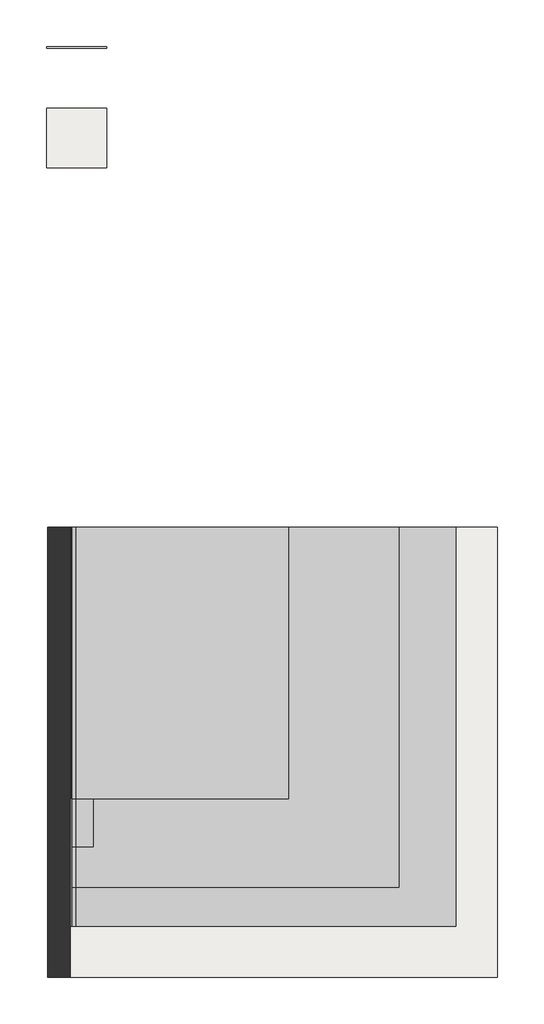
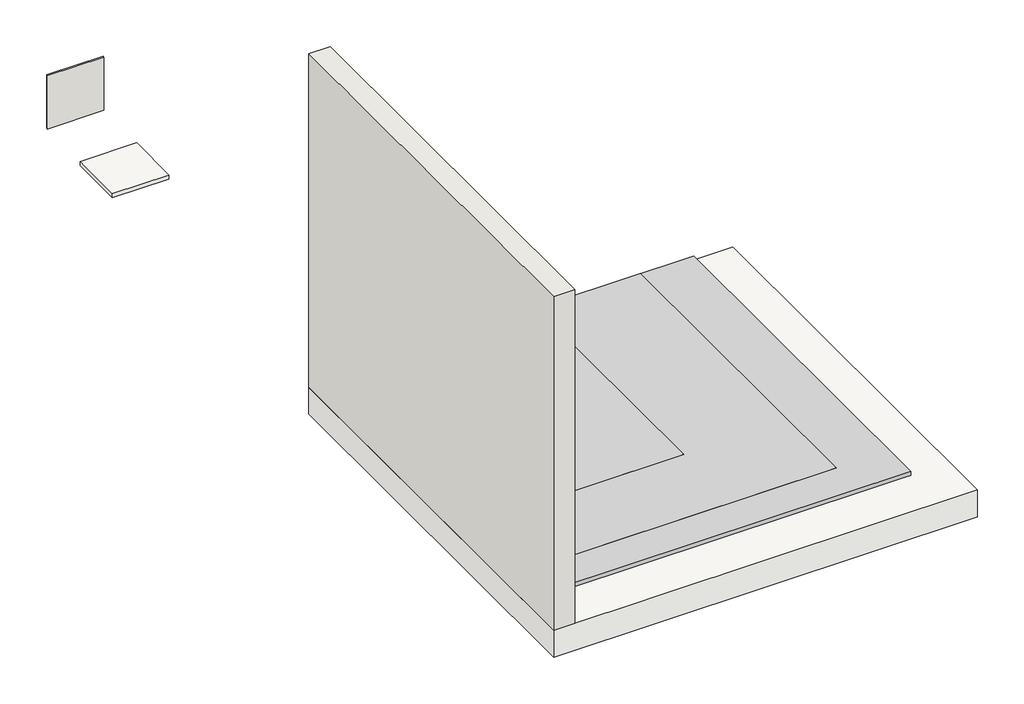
# One storey: 2 slabs, 2 walls, 1 proxy.
"""IFC4 building model written with IfcOpenShell, lengths in millimetres."""

import ifcopenshell
import ifcopenshell.guid

model = None  # the IFC model being written
_history = None  # IfcOwnerHistory: only IFC2X3 demands one
_inside = {}  # id of a spatial element -> (the spatial element, [elements in it])
_under = {}  # id of a project, library or spatial element -> (it, [spatial elements below it])
_declared = {}  # id of a project -> (the project, [libraries it declares])
_typed = {}  # id of a type object -> (the type object, [elements of that type])
_made_of = {}  # id of a material, layer set ... -> (it, [elements and type objects made of it])


def new_model(schema):
    """Start an empty IFC model of exactly this schema.

    Asked for "IFC4X3", IfcOpenShell would pick the latest addendum, in which some entities
    have other attributes; the version numbers below select the first issue.
    IFC2X3 requires an IfcOwnerHistory on every rooted entity: one is made here for all.
    """
    global model, _history
    if schema == "IFC4X3":
        model = ifcopenshell.file(schema_version=(4, 3, 0, 0))
    else:
        model = ifcopenshell.file(schema=schema)
    _inside.clear()
    _under.clear()
    _declared.clear()
    _typed.clear()
    _made_of.clear()
    _history = None
    if model.schema == "IFC2X3":
        org = make("IfcOrganization", Name="unknown")
        user = make(
            "IfcPersonAndOrganization",
            ThePerson=make("IfcPerson", FamilyName="unknown"),
            TheOrganization=org,
        )
        app = make(
            "IfcApplication",
            ApplicationDeveloper=org,
            Version="unknown",
            ApplicationFullName="unknown",
            ApplicationIdentifier="unknown",
        )
        _history = make(
            "IfcOwnerHistory",
            OwningUser=user,
            OwningApplication=app,
            ChangeAction="ADDED",
            CreationDate=0,
        )
    return model


def make(cls, **values):
    """One entity of the class cls with the attributes given. An attribute that is None is left unset."""
    return model.create_entity(
        cls, **{name: value for name, value in values.items() if value is not None}
    )


def rooted(cls, **values):
    """An entity with a GlobalId (a new one), such as an element, a storey or a relation."""
    return make(cls, GlobalId=ifcopenshell.guid.new(), OwnerHistory=_history, **values)


def si_unit(unit_type, name, prefix=None):
    """IfcSIUnit, for example si_unit("LENGTHUNIT", "METRE", prefix="MILLI")."""
    return make("IfcSIUnit", UnitType=unit_type, Prefix=prefix, Name=name)


def assignment(units):
    """IfcUnitAssignment: the units of a project."""
    return None if units is None else make("IfcUnitAssignment", Units=units)


def point(xyz):
    """IfcCartesianPoint."""
    return None if xyz is None else make("IfcCartesianPoint", Coordinates=xyz)


def direction(xyz):
    """IfcDirection."""
    return None if xyz is None else make("IfcDirection", DirectionRatios=xyz)


def frame(location, z_axis=None, x_axis=None):
    """IfcAxis2Placement3D, a coordinate frame: its origin and axes. An axis left out is left unset."""
    return make(
        "IfcAxis2Placement3D",
        Location=point(location),
        Axis=direction(z_axis),
        RefDirection=direction(x_axis),
    )


def frame_2d(location, x_axis=None):
    """IfcAxis2Placement2D, a coordinate frame in the plane: its origin and x axis."""
    return make(
        "IfcAxis2Placement2D", Location=point(location), RefDirection=direction(x_axis)
    )


def origin():
    """The frame at (0, 0, 0) with its axes left unset."""
    return frame((0.0, 0.0, 0.0))


def place(relative_to, where):
    """IfcLocalPlacement: puts the frame where relative to a parent placement (None: the world)."""
    return make(
        "IfcLocalPlacement", PlacementRelTo=relative_to, RelativePlacement=where
    )


def context(
    kind, dimensions, precision=None, world=None, true_north=None, identifier=None
):
    """IfcGeometricRepresentationContext, for example the 3D "Model" context."""
    return make(
        "IfcGeometricRepresentationContext",
        ContextIdentifier=identifier,
        ContextType=kind,
        CoordinateSpaceDimension=dimensions,
        Precision=precision,
        WorldCoordinateSystem=world,
        TrueNorth=true_north,
    )


def project(units=None, contexts=None):
    """IfcProject with its units and contexts."""
    return rooted(
        "IfcProject",
        Name="project",
        RepresentationContexts=contexts,
        UnitsInContext=assignment(units),
    )


def spatial(cls, under=None, at=None, **own):
    """A site, building, storey or space (cls), placed at a placement, below another one or the project."""
    s = rooted(cls, ObjectPlacement=at, **own)
    if under is not None:
        _under.setdefault(under.id(), (under, []))[1].append(s)
    return s


def polyline(points):
    """IfcPolyline through the points."""
    return make("IfcPolyline", Points=[point(p) for p in points])


def circle_curve(where, radius):
    """IfcCircle in the frame where."""
    return make("IfcCircle", Position=where, Radius=radius)


def trimmed(basis, trim1, trim2, sense, master):
    """IfcTrimmedCurve: the piece of a basis curve between two trims."""
    return make(
        "IfcTrimmedCurve",
        BasisCurve=basis,
        Trim1=trim1,
        Trim2=trim2,
        SenseAgreement=sense,
        MasterRepresentation=master,
    )


def segment(curve, same_sense, transition):
    """IfcCompositeCurveSegment."""
    return make(
        "IfcCompositeCurveSegment",
        Transition=transition,
        SameSense=same_sense,
        ParentCurve=curve,
    )


def composite_curve(segments, self_intersect=None):
    """IfcCompositeCurve: segments joined end to end."""
    return make("IfcCompositeCurve", Segments=segments, SelfIntersect=self_intersect)


def outline(outer, holes=None, kind="AREA"):
    """IfcArbitraryClosedProfileDef: a profile drawn as a closed curve; with holes, ...WithVoids."""
    if holes is None:
        return make("IfcArbitraryClosedProfileDef", ProfileType=kind, OuterCurve=outer)
    return make(
        "IfcArbitraryProfileDefWithVoids",
        ProfileType=kind,
        OuterCurve=outer,
        InnerCurves=holes,
    )


def extrude(swept, where, along, depth):
    """IfcExtrudedAreaSolid: the profile swept, set in the frame where, extruded along a direction by depth."""
    return make(
        "IfcExtrudedAreaSolid",
        SweptArea=swept,
        Position=where,
        ExtrudedDirection=direction(along),
        Depth=depth,
    )


def shape(context_of_items, identifier, shape_type, items):
    """IfcShapeRepresentation: the items that make up one representation, for example the "Body"."""
    return make(
        "IfcShapeRepresentation",
        ContextOfItems=context_of_items,
        RepresentationIdentifier=identifier,
        RepresentationType=shape_type,
        Items=items,
    )


def source(mapping_origin, context_of_items, identifier, shape_type, items):
    """IfcRepresentationMap: a shape defined once, which mapped items show again and again."""
    return make(
        "IfcRepresentationMap",
        MappingOrigin=mapping_origin,
        MappedRepresentation=shape(context_of_items, identifier, shape_type, items),
    )


def transform(
    local_origin,
    x_axis=None,
    y_axis=None,
    z_axis=None,
    scale=None,
    scale2=None,
    scale3=None,
    uniform=True,
):
    """IfcCartesianTransformationOperator3D, or its non-uniform kind. x_axis, y_axis, z_axis: its Axis1, 2, 3."""
    if uniform:
        return make(
            "IfcCartesianTransformationOperator3D",
            Axis1=direction(x_axis),
            Axis2=direction(y_axis),
            LocalOrigin=point(local_origin),
            Scale=scale,
            Axis3=direction(z_axis),
        )
    return make(
        "IfcCartesianTransformationOperator3DnonUniform",
        Axis1=direction(x_axis),
        Axis2=direction(y_axis),
        LocalOrigin=point(local_origin),
        Scale=scale,
        Axis3=direction(z_axis),
        Scale2=scale2,
        Scale3=scale3,
    )


def mapped(mapping_source, mapping_target):
    """IfcMappedItem: shows the shape of a source again, moved by a transform."""
    return make(
        "IfcMappedItem", MappingSource=mapping_source, MappingTarget=mapping_target
    )


def made_of(thing, what):
    """Note that an element or type object is made of a material, layer set ...; save() writes the relation."""
    if what is not None:
        _made_of.setdefault(what.id(), (what, []))[1].append(thing)
    return thing


def element(
    cls,
    number,
    at=None,
    inside=None,
    cuts=None,
    type_object=None,
    material=None,
    context=None,
    identifier="Body",
    shape_type=None,
    held_by="IfcProductDefinitionShape",
    body=None,
    shapes=None,
    **own,
):
    """One element of the class cls, such as IfcWall. Its Tag is "e" and its number.

    at: its placement. inside: the storey or other place that contains it. cuts: it is an
    opening in that element (IfcRelVoidsElement). A single representation is given by context,
    identifier, shape_type and body (its items); several are given by shapes. held_by: the class
    of the entity that holds the representations. save() writes the other relations.
    """
    e = rooted(cls, Tag="e%d" % number, ObjectPlacement=at, **own)
    if body is not None:
        shapes = [shape(context, identifier, shape_type, body)]
    if shapes is not None:
        e.Representation = make(held_by, Representations=shapes)
    if inside is not None:
        _inside.setdefault(inside.id(), (inside, []))[1].append(e)
    if cuts is not None:
        rooted(
            "IfcRelVoidsElement", RelatingBuildingElement=cuts, RelatedOpeningElement=e
        )
    if type_object is not None:
        _typed.setdefault(type_object.id(), (type_object, []))[1].append(e)
    return made_of(e, material)


def aggregate(whole, parts):
    """IfcRelAggregates: a whole, such as a stair, and the parts it consists of."""
    return rooted("IfcRelAggregates", RelatingObject=whole, RelatedObjects=parts)


def save(model, path):
    """Write the relations noted so far, then the file.

    IfcRelAggregates (storeys below a building ...), IfcRelContainedInSpatialStructure (elements
    in a storey), IfcRelDefinesByType, IfcRelAssociatesMaterial and IfcRelDeclares: one each for
    every whole, place, type object, material and project.
    """
    for whole, parts in _under.values():
        aggregate(whole, parts)
    for where, things in _inside.values():
        rooted(
            "IfcRelContainedInSpatialStructure",
            RelatedElements=things,
            RelatingStructure=where,
        )
    for kind, things in _typed.values():
        rooted("IfcRelDefinesByType", RelatedObjects=things, RelatingType=kind)
    for what, things in _made_of.values():
        rooted("IfcRelAssociatesMaterial", RelatedObjects=things, RelatingMaterial=what)
    for by, libraries in _declared.values():
        rooted("IfcRelDeclares", RelatingContext=by, RelatedDefinitions=libraries)
    model.write(path)


def generic_models_90d27927(model_context):
    return source(origin(), model_context, "Body", "SweptSolid", [
        extrude(outline(composite_curve([segment(polyline([(29.3018705, -313.1733412), (29.3018705, 1105.5691572), (30.3018705, 1105.5691572), (30.3018705, -313.1518102)]), True, "CONTINUOUS"), segment(trimmed(circle_curve(frame_2d((57.476202, -311.9704105)), 27.2), [point((30.3018705, -313.1518102))], [point((56.6918921, -339.1591004))], True, "CARTESIAN"), True, "CONTINUOUS"), segment(polyline([(56.6918921, -339.1591004), (297.476202, -339.1591004), (297.476202, -340.1591004), (56.6776019, -340.1591004)]), True, "CONTINUOUS"), segment(trimmed(circle_curve(frame_2d((57.476202, -311.9704105)), 28.2), [point((56.6776019, -340.1591004))], [point((29.3018705, -313.1733412))], False, "CARTESIAN"), True, "CONTINUOUS")], self_intersect=False)), frame((0.0, -1663.6634516, 0.0), z_axis=(0.0, 1.0, 0.0), x_axis=(0.0, 0.0, 1.0)), (0.0, 0.0, 1.0), 1809.5334711),
        extrude(outline(composite_curve([segment(polyline([(28.5018705, -313.1902924), (28.5018705, -197.2985628), (29.3018705, -197.2985628), (29.3018705, -313.1733412)]), True, "CONTINUOUS"), segment(trimmed(circle_curve(frame_2d((57.476202, -311.9704105)), 28.2), [point((29.3018705, -313.1733412))], [point((56.6776019, -340.1591004))], True, "CARTESIAN"), True, "CONTINUOUS"), segment(polyline([(56.6776019, -340.1591004), (152.1770328, -340.1591004), (152.1770328, -340.9591004), (56.6663512, -340.9591004)]), True, "CONTINUOUS"), segment(trimmed(circle_curve(frame_2d((57.476202, -311.9704105)), 29.0), [point((56.6663512, -340.9591004))], [point((28.5018705, -313.1902924))], False, "CARTESIAN"), True, "CONTINUOUS")], self_intersect=False)), frame((0.0, -1981.6616434, 0.0), z_axis=(0.0, 1.0, 0.0), x_axis=(0.0, 0.0, 1.0)), (0.0, 0.0, 1.0), 2127.5316629),
        extrude(outline(composite_curve([segment(trimmed(circle_curve(frame_2d((57.476202, -311.9704105)), 30.0), [point((27.476202, -311.9704105))], [point((57.476202, -341.9704105))], True, "CARTESIAN"), True, "CONTINUOUS"), segment(polyline([(57.476202, -341.9704105), (297.476202, -341.9704105), (297.476202, -351.9704105), (-2.523798, -351.9704105), (-2.523798, 2221.8598581), (27.476202, 2221.8598581), (27.476202, -311.9704105)]), True, "CONTINUOUS")], self_intersect=False)), frame((0.0, -2514.1299805, 0.0), z_axis=(0.0, 1.0, 0.0), x_axis=(0.0, 0.0, 1.0)), (0.0, 0.0, 1.0), 2660.0),
        extrude(outline(composite_curve([segment(polyline([(56.6663512, -340.9591004), (297.476202, -340.9591004), (297.476202, -341.9704105), (57.476202, -341.9704105)]), True, "CONTINUOUS"), segment(trimmed(circle_curve(frame_2d((57.476202, -311.9704105)), 30.0), [point((57.476202, -341.9704105))], [point((27.476202, -311.9704105))], False, "CARTESIAN"), True, "CONTINUOUS"), segment(polyline([(27.476202, -311.9704105), (27.476202, 1843.8528814), (28.5018705, 1843.8528814), (28.5018705, -313.1902924)]), True, "CONTINUOUS"), segment(trimmed(circle_curve(frame_2d((57.476202, -311.9704105)), 29.0), [point((28.5018705, -313.1902924))], [point((56.6663512, -340.9591004))], True, "CARTESIAN"), True, "CONTINUOUS")], self_intersect=False)), frame((0.0, -2254.1299805, 0.0), z_axis=(0.0, 1.0, 0.0), x_axis=(0.0, 0.0, 1.0)), (0.0, 0.0, 1.0), 2400.0),
    ])


model = new_model("IFC4")

# Units and contexts
model_context = context("Model", 3, world=origin())
ifc_project = project(units=[si_unit("LENGTHUNIT", "METRE", prefix="MILLI")], contexts=[model_context])

# Site, building, storey
site = spatial("IfcSite", under=ifc_project)
building = spatial("IfcBuilding", under=site)
storey = spatial("IfcBuildingStorey", under=building, Name="ARQ Térreo", Elevation=-2.523798)

# Proxy
placement = place(None, origin())
generic_models_shape = generic_models_90d27927(model_context)
element("IfcBuildingElementProxy", 1, Name="IMPER:IMPER:433934 : IMPER:IMPER:433934", ObjectType="IMPER:IMPER:433934 : IMPER:IMPER:433934", at=placement, inside=storey, context=model_context, shape_type="MappedRepresentation", body=[
    mapped(generic_models_shape, transform((0.0, 0.0, 0.0), x_axis=(1.0, 0.0, 0.0), y_axis=(0.0, 1.0, 0.0), z_axis=(0.0, 0.0, 1.0))),
])

# Slabs
element("IfcSlab", 2, ObjectType="IMPH_VDGU10", at=placement, inside=storey, context=model_context, shape_type="SweptSolid", body=[
    extrude(outline(polyline([(-508.4496081, 2938.9349646), (-108.4496081, 2938.9349646), (-108.4496081, 2541.9349646), (-508.4496081, 2541.9349646), (-508.4496081, 2938.9349646)])), frame((0.0, 0.0, -33.523798), z_axis=(0.0, 0.0, 1.0), x_axis=(1.0, 0.0, 0.0)), (0.0, 0.0, 1.0), 31.0),
])
element("IfcSlab", 3, ObjectType="Piso:LAJE CONCRETO", at=placement, inside=storey, context=model_context, shape_type="SweptSolid", body=[
    extrude(outline(polyline([(-501.9704105, 145.8700195), (2498.0295895, 145.8700195), (2498.0295895, -2854.1299805), (-501.9704105, -2854.1299805), (-501.9704105, 145.8700195)])), frame((0.0, 0.0, -202.523798), z_axis=(0.0, 0.0, 1.0), x_axis=(1.0, 0.0, 0.0)), (0.0, 0.0, 1.0), 200.0),
])

# Walls
element("IfcWall", 4, ObjectType="Parede básica:Parede Concreto", at=placement, inside=storey, context=model_context, shape_type="SweptSolid", body=[
    extrude(outline(polyline([(-501.9704105, -2854.1299805), (-501.9704105, 145.8700195), (-351.9704105, 145.8700195), (-351.9704105, -2854.1299805), (-501.9704105, -2854.1299805)])), frame((0.0, 0.0, -2.523798), z_axis=(0.0, 0.0, 1.0), x_axis=(1.0, 0.0, 0.0)), (0.0, 0.0, 1.0), 2500.0),
])
element("IfcWall", 5, ObjectType="IMPV_VDGU10", at=placement, inside=storey, context=model_context, shape_type="SweptSolid", body=[
    extrude(outline(polyline([(-508.4496081, 3349.9349646), (-108.4496081, 3349.9349646), (-108.4496081, 3338.9349646), (-508.4496081, 3338.9349646), (-508.4496081, 3349.9349646)])), frame((0.0, 0.0, -2.523798), z_axis=(0.0, 0.0, 1.0), x_axis=(1.0, 0.0, 0.0)), (0.0, 0.0, 1.0), 400.0),
])

save(model, "model.ifc")
